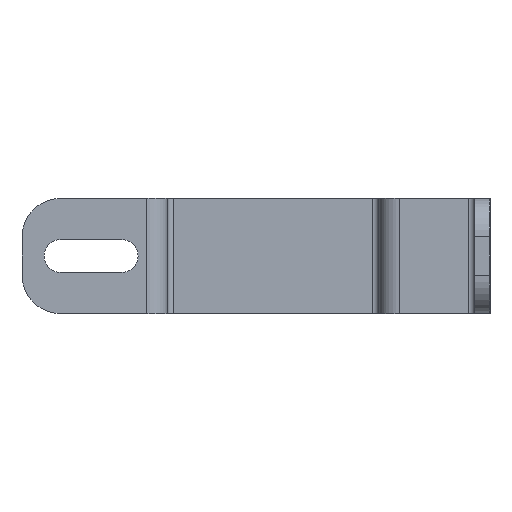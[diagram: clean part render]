
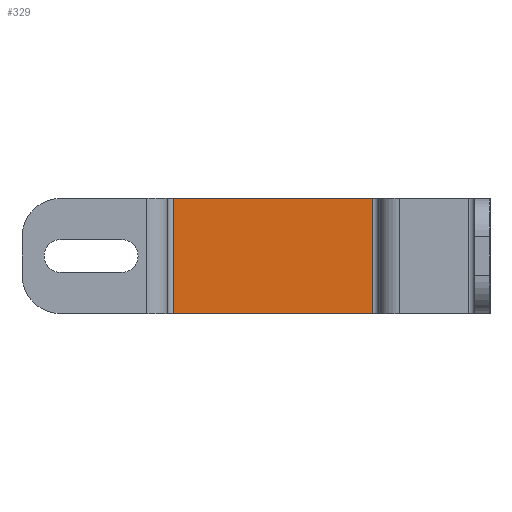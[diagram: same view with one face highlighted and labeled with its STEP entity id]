
A CAD part, left-side view. The second image highlights one B-rep face of the part: STEP entity #329.
In plain terms, the highlighted planar face has unit normal (-1, 0, 0).
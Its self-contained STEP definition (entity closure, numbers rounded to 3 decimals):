
#327 = EDGE_CURVE ( 'NONE', #518, #464, #786, .T. ) ;
#328 = ORIENTED_EDGE ( 'NONE', *, *, #327, .F. ) ;
#329 = ADVANCED_FACE ( 'NONE', ( #1135 ), #996, .T. ) ;
#330 = ORIENTED_EDGE ( 'NONE', *, *, #502, .T. ) ;
#331 = ORIENTED_EDGE ( 'NONE', *, *, #409, .T. ) ;
#375 = VERTEX_POINT ( 'NONE', #1648 ) ;
#407 = EDGE_LOOP ( 'NONE', ( #410, #328, #330, #331 ) ) ;
#409 = EDGE_CURVE ( 'NONE', #375, #517, #1203, .T. ) ;
#410 = ORIENTED_EDGE ( 'NONE', *, *, #460, .F. ) ;
#460 = EDGE_CURVE ( 'NONE', #464, #517, #1307, .T. ) ;
#464 = VERTEX_POINT ( 'NONE', #1314 ) ;
#502 = EDGE_CURVE ( 'NONE', #518, #375, #1355, .T. ) ;
#517 = VERTEX_POINT ( 'NONE', #1395 ) ;
#518 = VERTEX_POINT ( 'NONE', #1387 ) ;
#785 = VECTOR ( 'NONE', #806, 1000. ) ;
#786 = LINE ( 'NONE', #801, #785 ) ;
#801 = CARTESIAN_POINT ( 'NONE',  ( 230., 30.5, 15. ) ) ;
#806 = DIRECTION ( 'NONE',  ( 0., 0., -1. ) ) ;
#995 = CARTESIAN_POINT ( 'NONE',  ( 230., 25., 15. ) ) ;
#996 = PLANE ( 'NONE',  #1058 ) ;
#1050 = DIRECTION ( 'NONE',  ( 0., 0., 1. ) ) ;
#1051 = DIRECTION ( 'NONE',  ( -1., 0., 0. ) ) ;
#1058 = AXIS2_PLACEMENT_3D ( 'NONE', #995, #1051, #1050 ) ;
#1135 = FACE_OUTER_BOUND ( 'NONE', #407, .T. ) ;
#1202 = VECTOR ( 'NONE', #1208, 1000. ) ;
#1203 = LINE ( 'NONE', #1206, #1202 ) ;
#1206 = CARTESIAN_POINT ( 'NONE',  ( 230., 82.5, 15. ) ) ;
#1208 = DIRECTION ( 'NONE',  ( 0., 0., -1. ) ) ;
#1304 = DIRECTION ( 'NONE',  ( 0., 1., 0. ) ) ;
#1305 = VECTOR ( 'NONE', #1304, 1000. ) ;
#1306 = CARTESIAN_POINT ( 'NONE',  ( 230., 25., -15. ) ) ;
#1307 = LINE ( 'NONE', #1306, #1305 ) ;
#1314 = CARTESIAN_POINT ( 'NONE',  ( 230., 30.5, -15. ) ) ;
#1355 = LINE ( 'NONE', #1403, #1402 ) ;
#1387 = CARTESIAN_POINT ( 'NONE',  ( 230., 30.5, 15. ) ) ;
#1395 = CARTESIAN_POINT ( 'NONE',  ( 230., 82.5, -15. ) ) ;
#1401 = DIRECTION ( 'NONE',  ( 0., 1., 0. ) ) ;
#1402 = VECTOR ( 'NONE', #1401, 1000. ) ;
#1403 = CARTESIAN_POINT ( 'NONE',  ( 230., 25., 15. ) ) ;
#1648 = CARTESIAN_POINT ( 'NONE',  ( 230., 82.5, 15. ) ) ;
